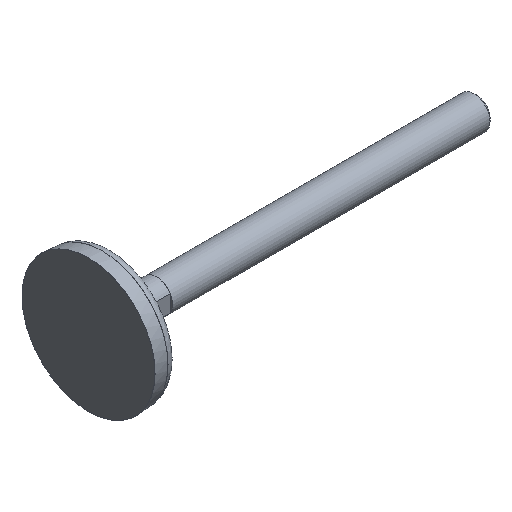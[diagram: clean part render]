
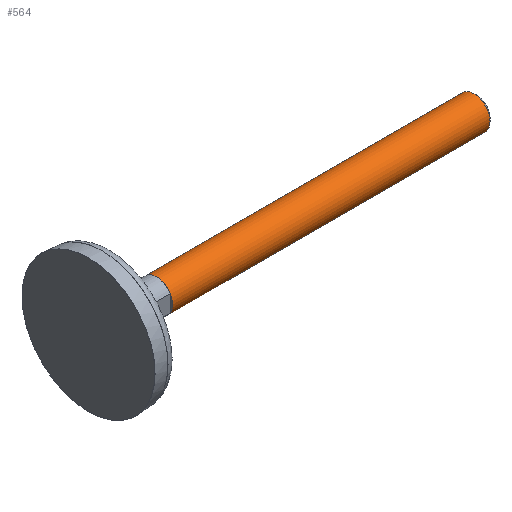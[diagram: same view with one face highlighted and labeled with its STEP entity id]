
A CAD part, isometric view. The second image highlights one B-rep face of the part: STEP entity #564.
In plain terms, the highlighted cylindrical face has radius 10 mm (diameter 20 mm), a full revolution.
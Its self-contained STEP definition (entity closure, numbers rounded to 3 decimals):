
#483=CARTESIAN_POINT('',(-646.178,-553.126,-19.626));
#484=VERTEX_POINT('',#483);
#485=CARTESIAN_POINT('',(-646.178,-573.126,-19.626));
#486=VERTEX_POINT('',#485);
#487=CARTESIAN_POINT('',(-646.178,-563.126,-19.626));
#488=DIRECTION('',(1.0,0.0,0.0));
#489=DIRECTION('',(0.0,-1.0,0.0));
#490=AXIS2_PLACEMENT_3D('',#487,#488,#489);
#491=CIRCLE('',#490,10.0);
#492=EDGE_CURVE('',#484,#486,#491,.T.);
#494=CARTESIAN_POINT('',(-646.178,-563.126,-19.626));
#495=DIRECTION('',(1.0,0.0,0.0));
#496=DIRECTION('',(0.0,-1.0,0.0));
#497=AXIS2_PLACEMENT_3D('',#494,#495,#496);
#498=CIRCLE('',#497,10.0);
#499=EDGE_CURVE('',#486,#484,#498,.T.);
#530=CARTESIAN_POINT('',(-646.178,-563.126,-19.626));
#531=DIRECTION('',(1.0,0.0,0.0));
#532=DIRECTION('',(0.0,-1.0,0.0));
#533=AXIS2_PLACEMENT_3D('',#530,#531,#532);
#534=CYLINDRICAL_SURFACE('',#533,10.0);
#535=ORIENTED_EDGE('',*,*,#499,.T.);
#536=ORIENTED_EDGE('',*,*,#492,.T.);
#537=CARTESIAN_POINT('',(-448.178,-573.126,-19.626));
#538=VERTEX_POINT('',#537);
#539=CARTESIAN_POINT('',(-646.178,-573.126,-19.626));
#540=DIRECTION('',(1.0,0.0,0.0));
#541=VECTOR('',#540,198.0);
#542=LINE('',#539,#541);
#543=EDGE_CURVE('',#486,#538,#542,.T.);
#544=ORIENTED_EDGE('',*,*,#543,.T.);
#545=CARTESIAN_POINT('',(-448.178,-553.126,-19.626));
#546=VERTEX_POINT('',#545);
#547=CARTESIAN_POINT('',(-448.178,-563.126,-19.626));
#548=DIRECTION('',(1.0,0.0,0.0));
#549=DIRECTION('',(0.0,-1.0,0.0));
#550=AXIS2_PLACEMENT_3D('',#547,#548,#549);
#551=CIRCLE('',#550,10.0);
#552=EDGE_CURVE('',#546,#538,#551,.T.);
#553=ORIENTED_EDGE('',*,*,#552,.F.);
#554=CARTESIAN_POINT('',(-448.178,-563.126,-19.626));
#555=DIRECTION('',(1.0,0.0,0.0));
#556=DIRECTION('',(0.0,-1.0,0.0));
#557=AXIS2_PLACEMENT_3D('',#554,#555,#556);
#558=CIRCLE('',#557,10.0);
#559=EDGE_CURVE('',#538,#546,#558,.T.);
#560=ORIENTED_EDGE('',*,*,#559,.F.);
#561=ORIENTED_EDGE('',*,*,#543,.F.);
#562=EDGE_LOOP('',(#535,#536,#544,#553,#560,#561));
#563=FACE_OUTER_BOUND('',#562,.T.);
#564=ADVANCED_FACE('',(#563),#534,.T.);
